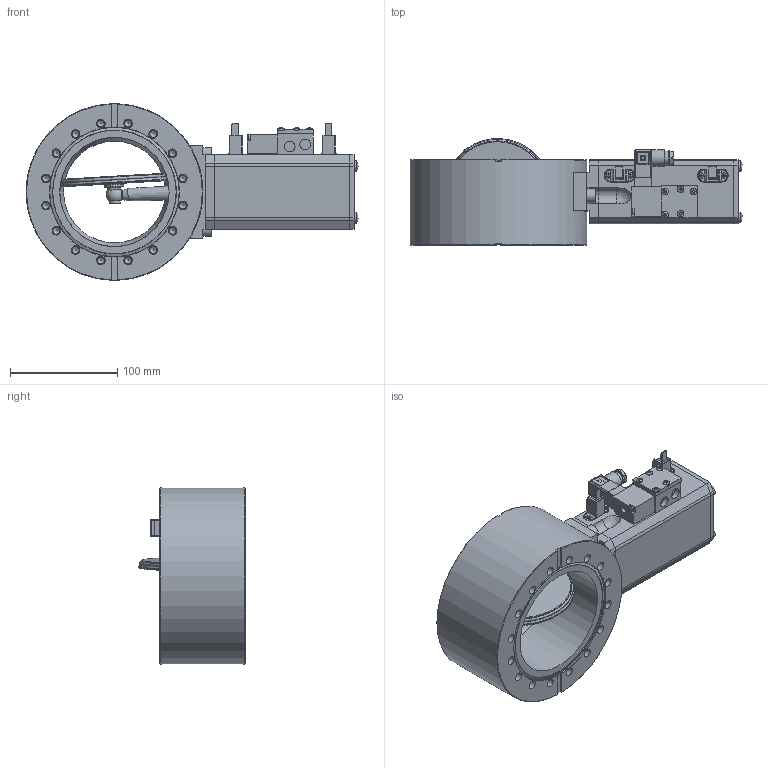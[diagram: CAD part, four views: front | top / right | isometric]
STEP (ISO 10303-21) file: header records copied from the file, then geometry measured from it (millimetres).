
FILE_DESCRIPTION(/* description */ (''),/* implementation_level */ '2;1');
FILE_NAME(/* name */ '1082616940_203.stp',/* time_stamp */ '2017-01-02T10:54:15+01:00',/* author */ (''),/* organization */ (''),/* preprocessor_version */ 'ST-DEVELOPER v15',/* originating_system */ 'SIEMENS PLM Software NX 9.0',/* authorisation */ '');
FILE_SCHEMA (('AP203_CONFIGURATION_CONTROLLED_3D_DESIGN_OF_MECHANICAL_PARTS_AND_ASSEMBLIES_MIM_LF { 1 0 10303 403 2 1 2}'));
Length unit declared in the file: millimetre
Products named in the file (35): N-6089-308.1; 372421; 227430.1; N-8409-200.3; 92571-01.2; 467882; 437235; 365072; 372221; 227328.2; 227452.1; N-6024-515.1; 227450.1; N-7557-016_1.1; N-7557-018.1; N-7557-016_2.1; N-6024-524.1; N-5018-005.1; 224374.6; 233106.4; 224315.3; 224223.6; 233137.1; N-6005-474.1; 225582.1; 244915.1; 224828.2; N-6013-443.2; 372418; 372415_NX-ARRAGMNTZUSAMMENST1; 227117.3; 226699_NX-ARRAGMNTZUSAMMENST1; N-7557-016_3.1_MODELNX-ARRAGMNTArrangement 1; 94800-R1.7_NX-ARRAGMNTKONFIG4; 373894
Assembly tree (49 placements, depth 4):
  373894
    N-6013-443.2  x4
    224828.2  x2
    244915.1
    225582.1  x4
    N-6005-474.1
    233137.1
    224223.6
    224315.3
    233106.4
    224374.6
    94800-R1.7_NX-ARRAGMNTKONFIG4
      N-5018-005.1  x2
      N-6024-524.1  x6
      N-7557-016_2.1
      N-7557-018.1
      N-7557-016_1.1
      N-7557-016_3.1_MODELNX-ARRAGMNTArrangement 1
        437235
        467882
    226699_NX-ARRAGMNTZUSAMMENST1  x2
      227450.1
      N-6024-515.1
      227452.1
      227328.2
      227117.3
        92571-01.2
        N-8409-200.3
        227430.1
    372415_NX-ARRAGMNTZUSAMMENST1
      372418
        372421
        N-6089-308.1
      372221
      365072
Bounding box: 309.7 x 99.57 x 164.99 mm (x, y, z)
Volume: 1474000.8 mm3; surface area: 276250.9 mm2
Topology: 56 solids, 56 shells, 1683 faces, 4169 edges, 2725 vertices
Faces by surface type: plane 1044, cylinder 430, cone 126, bspline 31, sphere 30, torus 18, extrusion 4
Full cylindrical faces by diameter (mm): 0.4 x4, 0.6 x4, 1.1 x4, 1.2 x2, 2 x6, 2.2 x4, 2.5 x10, 2.7 x2, 2.9 x4, 3 x11, 3.2 x4, 3.3 x4, 3.4 x4, 3.5 x3, 4 x13, 4.22 x1, 4.4 x12, 4.96 x1, 5 x20, 5.006 x1, 5.4 x8, 5.5 x1, 6 x11, 6.3 x1, 6.4 x34, 6.66 x2, 6.7 x2, 6.9 x1, 7 x1, 7.008 x1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
Entity records: 40723 total; most frequent: CARTESIAN_POINT 7862, DIRECTION 5548, ORIENTED_EDGE 4932, EDGE_CURVE 2466, AXIS2_PLACEMENT_3D 2097, VERTEX_POINT 1860, EDGE_LOOP 1758, VECTOR 1354
